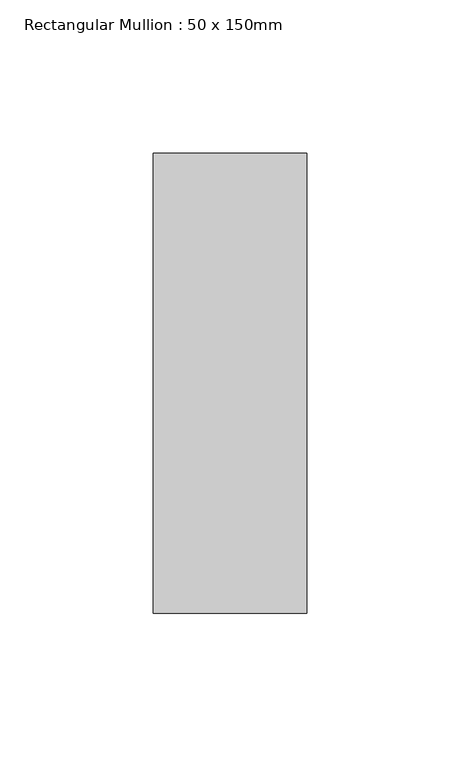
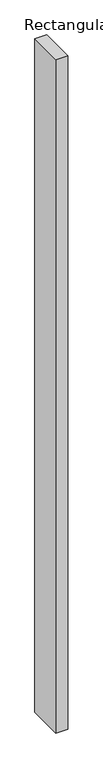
"""IFC4 building model written with IfcOpenShell, lengths in millimetres: member geometry, Rectangular Mullion : 50 x 150mm."""

import ifcopenshell
import ifcopenshell.guid

model = None  # the IFC model being written
_history = None  # IfcOwnerHistory: only IFC2X3 demands one
_inside = {}  # id of a spatial element -> (the spatial element, [elements in it])
_under = {}  # id of a project, library or spatial element -> (it, [spatial elements below it])
_declared = {}  # id of a project -> (the project, [libraries it declares])
_typed = {}  # id of a type object -> (the type object, [elements of that type])
_made_of = {}  # id of a material, layer set ... -> (it, [elements and type objects made of it])


def new_model(schema):
    """Start an empty IFC model of exactly this schema.

    Asked for "IFC4X3", IfcOpenShell would pick the latest addendum, in which some entities
    have other attributes; the version numbers below select the first issue.
    IFC2X3 requires an IfcOwnerHistory on every rooted entity: one is made here for all.
    """
    global model, _history
    if schema == "IFC4X3":
        model = ifcopenshell.file(schema_version=(4, 3, 0, 0))
    else:
        model = ifcopenshell.file(schema=schema)
    _inside.clear()
    _under.clear()
    _declared.clear()
    _typed.clear()
    _made_of.clear()
    _history = None
    if model.schema == "IFC2X3":
        org = make("IfcOrganization", Name="unknown")
        user = make(
            "IfcPersonAndOrganization",
            ThePerson=make("IfcPerson", FamilyName="unknown"),
            TheOrganization=org,
        )
        app = make(
            "IfcApplication",
            ApplicationDeveloper=org,
            Version="unknown",
            ApplicationFullName="unknown",
            ApplicationIdentifier="unknown",
        )
        _history = make(
            "IfcOwnerHistory",
            OwningUser=user,
            OwningApplication=app,
            ChangeAction="ADDED",
            CreationDate=0,
        )
    return model


def make(cls, **values):
    """One entity of the class cls with the attributes given. An attribute that is None is left unset."""
    return model.create_entity(
        cls, **{name: value for name, value in values.items() if value is not None}
    )


def rooted(cls, **values):
    """An entity with a GlobalId (a new one), such as an element, a storey or a relation."""
    return make(cls, GlobalId=ifcopenshell.guid.new(), OwnerHistory=_history, **values)


def si_unit(unit_type, name, prefix=None):
    """IfcSIUnit, for example si_unit("LENGTHUNIT", "METRE", prefix="MILLI")."""
    return make("IfcSIUnit", UnitType=unit_type, Prefix=prefix, Name=name)


def assignment(units):
    """IfcUnitAssignment: the units of a project."""
    return None if units is None else make("IfcUnitAssignment", Units=units)


def point(xyz):
    """IfcCartesianPoint."""
    return None if xyz is None else make("IfcCartesianPoint", Coordinates=xyz)


def direction(xyz):
    """IfcDirection."""
    return None if xyz is None else make("IfcDirection", DirectionRatios=xyz)


def frame(location, z_axis=None, x_axis=None):
    """IfcAxis2Placement3D, a coordinate frame: its origin and axes. An axis left out is left unset."""
    return make(
        "IfcAxis2Placement3D",
        Location=point(location),
        Axis=direction(z_axis),
        RefDirection=direction(x_axis),
    )


def origin():
    """The frame at (0, 0, 0) with its axes left unset."""
    return frame((0.0, 0.0, 0.0))


def place(relative_to, where):
    """IfcLocalPlacement: puts the frame where relative to a parent placement (None: the world)."""
    return make(
        "IfcLocalPlacement", PlacementRelTo=relative_to, RelativePlacement=where
    )


def context(
    kind, dimensions, precision=None, world=None, true_north=None, identifier=None
):
    """IfcGeometricRepresentationContext, for example the 3D "Model" context."""
    return make(
        "IfcGeometricRepresentationContext",
        ContextIdentifier=identifier,
        ContextType=kind,
        CoordinateSpaceDimension=dimensions,
        Precision=precision,
        WorldCoordinateSystem=world,
        TrueNorth=true_north,
    )


def project(units=None, contexts=None):
    """IfcProject with its units and contexts."""
    return rooted(
        "IfcProject",
        Name="project",
        RepresentationContexts=contexts,
        UnitsInContext=assignment(units),
    )


def spatial(cls, under=None, at=None, **own):
    """A site, building, storey or space (cls), placed at a placement, below another one or the project."""
    s = rooted(cls, ObjectPlacement=at, **own)
    if under is not None:
        _under.setdefault(under.id(), (under, []))[1].append(s)
    return s


def polyline(points):
    """IfcPolyline through the points."""
    return make("IfcPolyline", Points=[point(p) for p in points])


def outline(outer, holes=None, kind="AREA"):
    """IfcArbitraryClosedProfileDef: a profile drawn as a closed curve; with holes, ...WithVoids."""
    if holes is None:
        return make("IfcArbitraryClosedProfileDef", ProfileType=kind, OuterCurve=outer)
    return make(
        "IfcArbitraryProfileDefWithVoids",
        ProfileType=kind,
        OuterCurve=outer,
        InnerCurves=holes,
    )


def extrude(swept, where, along, depth):
    """IfcExtrudedAreaSolid: the profile swept, set in the frame where, extruded along a direction by depth."""
    return make(
        "IfcExtrudedAreaSolid",
        SweptArea=swept,
        Position=where,
        ExtrudedDirection=direction(along),
        Depth=depth,
    )


def shape(context_of_items, identifier, shape_type, items):
    """IfcShapeRepresentation: the items that make up one representation, for example the "Body"."""
    return make(
        "IfcShapeRepresentation",
        ContextOfItems=context_of_items,
        RepresentationIdentifier=identifier,
        RepresentationType=shape_type,
        Items=items,
    )


def source(mapping_origin, context_of_items, identifier, shape_type, items):
    """IfcRepresentationMap: a shape defined once, which mapped items show again and again."""
    return make(
        "IfcRepresentationMap",
        MappingOrigin=mapping_origin,
        MappedRepresentation=shape(context_of_items, identifier, shape_type, items),
    )


def transform(
    local_origin,
    x_axis=None,
    y_axis=None,
    z_axis=None,
    scale=None,
    scale2=None,
    scale3=None,
    uniform=True,
):
    """IfcCartesianTransformationOperator3D, or its non-uniform kind. x_axis, y_axis, z_axis: its Axis1, 2, 3."""
    if uniform:
        return make(
            "IfcCartesianTransformationOperator3D",
            Axis1=direction(x_axis),
            Axis2=direction(y_axis),
            LocalOrigin=point(local_origin),
            Scale=scale,
            Axis3=direction(z_axis),
        )
    return make(
        "IfcCartesianTransformationOperator3DnonUniform",
        Axis1=direction(x_axis),
        Axis2=direction(y_axis),
        LocalOrigin=point(local_origin),
        Scale=scale,
        Axis3=direction(z_axis),
        Scale2=scale2,
        Scale3=scale3,
    )


def mapped(mapping_source, mapping_target):
    """IfcMappedItem: shows the shape of a source again, moved by a transform."""
    return make(
        "IfcMappedItem", MappingSource=mapping_source, MappingTarget=mapping_target
    )


def made_of(thing, what):
    """Note that an element or type object is made of a material, layer set ...; save() writes the relation."""
    if what is not None:
        _made_of.setdefault(what.id(), (what, []))[1].append(thing)
    return thing


def element(
    cls,
    number,
    at=None,
    inside=None,
    cuts=None,
    type_object=None,
    material=None,
    context=None,
    identifier="Body",
    shape_type=None,
    held_by="IfcProductDefinitionShape",
    body=None,
    shapes=None,
    **own,
):
    """One element of the class cls, such as IfcWall. Its Tag is "e" and its number.

    at: its placement. inside: the storey or other place that contains it. cuts: it is an
    opening in that element (IfcRelVoidsElement). A single representation is given by context,
    identifier, shape_type and body (its items); several are given by shapes. held_by: the class
    of the entity that holds the representations. save() writes the other relations.
    """
    e = rooted(cls, Tag="e%d" % number, ObjectPlacement=at, **own)
    if body is not None:
        shapes = [shape(context, identifier, shape_type, body)]
    if shapes is not None:
        e.Representation = make(held_by, Representations=shapes)
    if inside is not None:
        _inside.setdefault(inside.id(), (inside, []))[1].append(e)
    if cuts is not None:
        rooted(
            "IfcRelVoidsElement", RelatingBuildingElement=cuts, RelatedOpeningElement=e
        )
    if type_object is not None:
        _typed.setdefault(type_object.id(), (type_object, []))[1].append(e)
    return made_of(e, material)


def aggregate(whole, parts):
    """IfcRelAggregates: a whole, such as a stair, and the parts it consists of."""
    return rooted("IfcRelAggregates", RelatingObject=whole, RelatedObjects=parts)


def save(model, path):
    """Write the relations noted so far, then the file.

    IfcRelAggregates (storeys below a building ...), IfcRelContainedInSpatialStructure (elements
    in a storey), IfcRelDefinesByType, IfcRelAssociatesMaterial and IfcRelDeclares: one each for
    every whole, place, type object, material and project.
    """
    for whole, parts in _under.values():
        aggregate(whole, parts)
    for where, things in _inside.values():
        rooted(
            "IfcRelContainedInSpatialStructure",
            RelatedElements=things,
            RelatingStructure=where,
        )
    for kind, things in _typed.values():
        rooted("IfcRelDefinesByType", RelatedObjects=things, RelatingType=kind)
    for what, things in _made_of.values():
        rooted("IfcRelAssociatesMaterial", RelatedObjects=things, RelatingMaterial=what)
    for by, libraries in _declared.values():
        rooted("IfcRelDeclares", RelatingContext=by, RelatedDefinitions=libraries)
    model.write(path)


def rectangular_mullion_50_x_150mm_3bc2b7d4(model_context):
    return source(origin(), model_context, "Body", "SweptSolid", [
        extrude(outline(polyline([(0.0, 75.0), (0.0, -75.0), (-50.0, -75.0), (-50.0, 75.0), (0.0, 75.0)])), frame((0.0, 0.0, -2959.9999998), z_axis=(0.0, 0.0, 1.0), x_axis=(1.0, 0.0, 0.0)), (0.0, 0.0, 1.0), 2959.9999998),
    ])


if __name__ == "__main__":
    model = new_model("IFC4")
    model_context = context("Model", 3, world=origin())
    ifc_project = project(units=[si_unit("LENGTHUNIT", "METRE", prefix="MILLI")], contexts=[model_context])
    site = spatial("IfcSite", under=ifc_project)
    building = spatial("IfcBuilding", under=site)
    placement = place(None, origin())
    rectangular_mullion_50_x_150mm_shape = rectangular_mullion_50_x_150mm_3bc2b7d4(model_context)
    element("IfcMember", 1, ObjectType="Rectangular Mullion : 50 x 150mm", at=placement, inside=building, context=model_context, shape_type="MappedRepresentation", body=[
        mapped(rectangular_mullion_50_x_150mm_shape, transform((0.0, 0.0, 0.0), x_axis=(1.0, 0.0, 0.0), y_axis=(0.0, 1.0, 0.0), z_axis=(0.0, 0.0, 1.0))),
    ])
    save(model, "model.ifc")
